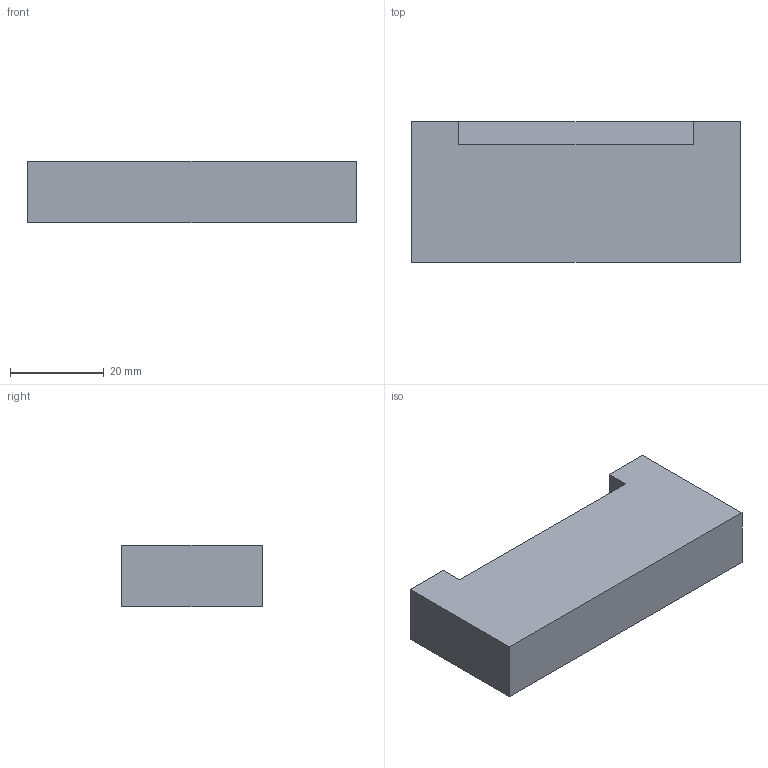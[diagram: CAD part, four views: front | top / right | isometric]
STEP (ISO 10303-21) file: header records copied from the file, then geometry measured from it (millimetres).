
FILE_DESCRIPTION(/* description */ ('Spatula Block'),/* implementation_level */ '2;1');
FILE_NAME(/* name */ 'ITPT.00.00.002.stp',/* time_stamp */ '2025-02-12T14:41:41+01:00',/* author */ ('Rüdiger Widera'),/* organization */ (''),/* preprocessor_version */ 'ST-DEVELOPER v19.2',/* originating_system */ 'Autodesk Inventor 2024',/* authorisation */ '');
FILE_SCHEMA (('AUTOMOTIVE_DESIGN { 1 0 10303 214 3 1 1 }'));
Length unit declared in the file: millimetre
Products named in the file (1): ITPT.00.00.002
Bounding box: 70 x 30 x 13 mm (x, y, z)
Volume: 26050 mm3; surface area: 6659 mm2
Topology: 1 solids, 1 shells, 9 faces, 21 edges, 14 vertices
Faces by surface type: plane 9
Entity records: 298 total; most frequent: CARTESIAN_POINT 45, ORIENTED_EDGE 42, DIRECTION 41, LINE 21, VECTOR 21, EDGE_CURVE 21, VERTEX_POINT 14, AXIS2_PLACEMENT_3D 10
